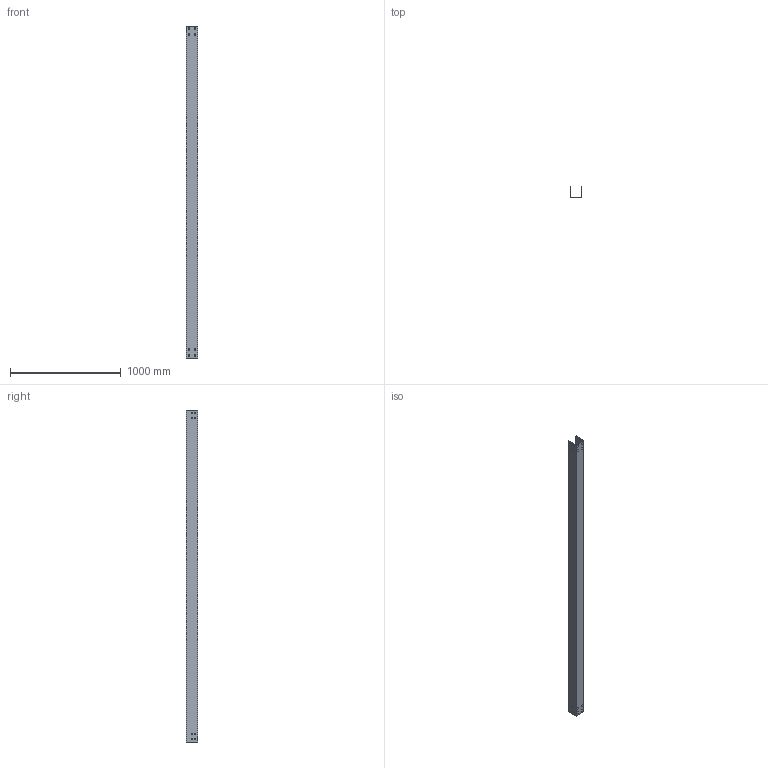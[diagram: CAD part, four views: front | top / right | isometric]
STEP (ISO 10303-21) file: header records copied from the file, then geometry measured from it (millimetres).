
FILE_DESCRIPTION (( 'STEP AP214' ), '1' );
FILE_NAME ('CF_101.step', '2025-07-16T09:05:11', ( '' ), ( '' ), 'SwSTEP 2.0', 'SolidWorks 2023', '' );
FILE_SCHEMA (( 'AUTOMOTIVE_DESIGN' ));
Length unit declared in the file: millimetre
Products named in the file (1): CF_101
Bounding box: 100 x 100 x 3000 mm (x, y, z)
Volume: 1333140 mm3; surface area: 1788875 mm2
Topology: 1 solids, 1 shells, 106 faces, 312 edges, 208 vertices
Faces by surface type: plane 106
Entity records: 3575 total; most frequent: CARTESIAN_POINT 627, ORIENTED_EDGE 624, DIRECTION 526, LINE 312, EDGE_CURVE 312, VECTOR 312, VERTEX_POINT 208, EDGE_LOOP 154
